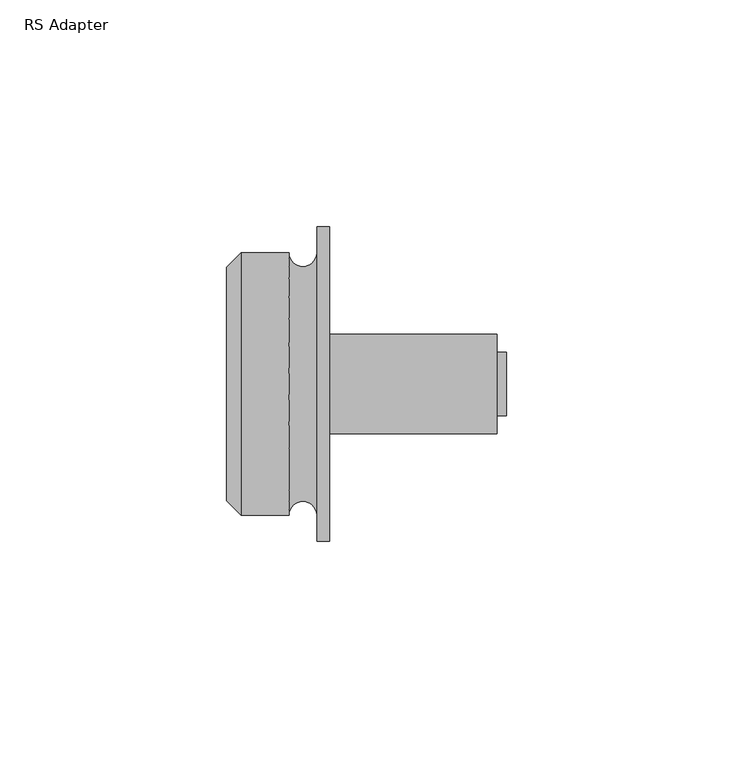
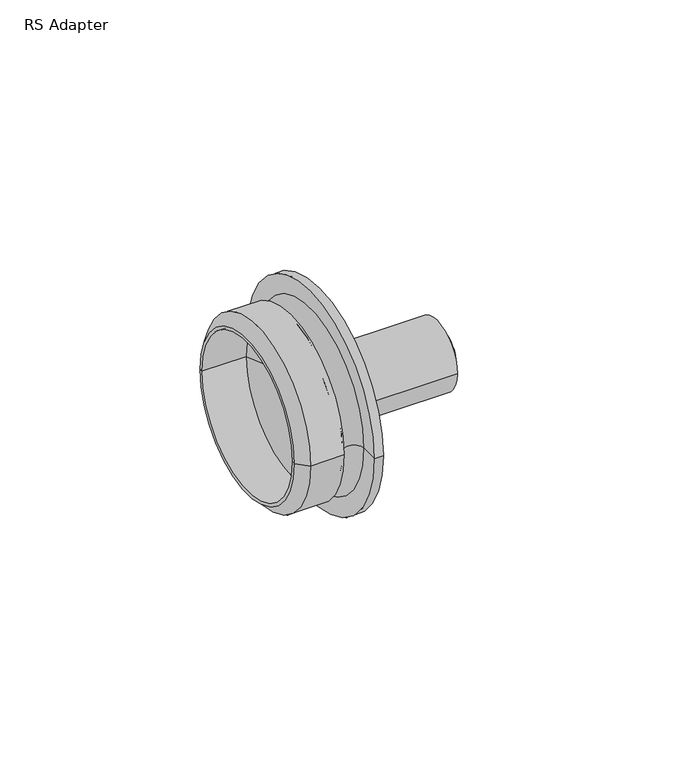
"""IFC4 building model written with IfcOpenShell, lengths in millimetres: pipe fitting geometry, RS Adapter : Superpipe RS Press Adapter."""

import ifcopenshell
import ifcopenshell.guid

model = None  # the IFC model being written
_history = None  # IfcOwnerHistory: only IFC2X3 demands one
_inside = {}  # id of a spatial element -> (the spatial element, [elements in it])
_under = {}  # id of a project, library or spatial element -> (it, [spatial elements below it])
_declared = {}  # id of a project -> (the project, [libraries it declares])
_typed = {}  # id of a type object -> (the type object, [elements of that type])
_made_of = {}  # id of a material, layer set ... -> (it, [elements and type objects made of it])


def new_model(schema):
    """Start an empty IFC model of exactly this schema.

    Asked for "IFC4X3", IfcOpenShell would pick the latest addendum, in which some entities
    have other attributes; the version numbers below select the first issue.
    IFC2X3 requires an IfcOwnerHistory on every rooted entity: one is made here for all.
    """
    global model, _history
    if schema == "IFC4X3":
        model = ifcopenshell.file(schema_version=(4, 3, 0, 0))
    else:
        model = ifcopenshell.file(schema=schema)
    _inside.clear()
    _under.clear()
    _declared.clear()
    _typed.clear()
    _made_of.clear()
    _history = None
    if model.schema == "IFC2X3":
        org = make("IfcOrganization", Name="unknown")
        user = make(
            "IfcPersonAndOrganization",
            ThePerson=make("IfcPerson", FamilyName="unknown"),
            TheOrganization=org,
        )
        app = make(
            "IfcApplication",
            ApplicationDeveloper=org,
            Version="unknown",
            ApplicationFullName="unknown",
            ApplicationIdentifier="unknown",
        )
        _history = make(
            "IfcOwnerHistory",
            OwningUser=user,
            OwningApplication=app,
            ChangeAction="ADDED",
            CreationDate=0,
        )
    return model


def make(cls, **values):
    """One entity of the class cls with the attributes given. An attribute that is None is left unset."""
    return model.create_entity(
        cls, **{name: value for name, value in values.items() if value is not None}
    )


def rooted(cls, **values):
    """An entity with a GlobalId (a new one), such as an element, a storey or a relation."""
    return make(cls, GlobalId=ifcopenshell.guid.new(), OwnerHistory=_history, **values)


def si_unit(unit_type, name, prefix=None):
    """IfcSIUnit, for example si_unit("LENGTHUNIT", "METRE", prefix="MILLI")."""
    return make("IfcSIUnit", UnitType=unit_type, Prefix=prefix, Name=name)


def assignment(units):
    """IfcUnitAssignment: the units of a project."""
    return None if units is None else make("IfcUnitAssignment", Units=units)


def point(xyz):
    """IfcCartesianPoint."""
    return None if xyz is None else make("IfcCartesianPoint", Coordinates=xyz)


def direction(xyz):
    """IfcDirection."""
    return None if xyz is None else make("IfcDirection", DirectionRatios=xyz)


def frame(location, z_axis=None, x_axis=None):
    """IfcAxis2Placement3D, a coordinate frame: its origin and axes. An axis left out is left unset."""
    return make(
        "IfcAxis2Placement3D",
        Location=point(location),
        Axis=direction(z_axis),
        RefDirection=direction(x_axis),
    )


def origin():
    """The frame at (0, 0, 0) with its axes left unset."""
    return frame((0.0, 0.0, 0.0))


def place(relative_to, where):
    """IfcLocalPlacement: puts the frame where relative to a parent placement (None: the world)."""
    return make(
        "IfcLocalPlacement", PlacementRelTo=relative_to, RelativePlacement=where
    )


def context(
    kind, dimensions, precision=None, world=None, true_north=None, identifier=None
):
    """IfcGeometricRepresentationContext, for example the 3D "Model" context."""
    return make(
        "IfcGeometricRepresentationContext",
        ContextIdentifier=identifier,
        ContextType=kind,
        CoordinateSpaceDimension=dimensions,
        Precision=precision,
        WorldCoordinateSystem=world,
        TrueNorth=true_north,
    )


def project(units=None, contexts=None):
    """IfcProject with its units and contexts."""
    return rooted(
        "IfcProject",
        Name="project",
        RepresentationContexts=contexts,
        UnitsInContext=assignment(units),
    )


def spatial(cls, under=None, at=None, **own):
    """A site, building, storey or space (cls), placed at a placement, below another one or the project."""
    s = rooted(cls, ObjectPlacement=at, **own)
    if under is not None:
        _under.setdefault(under.id(), (under, []))[1].append(s)
    return s


def polyline(points):
    """IfcPolyline through the points."""
    return make("IfcPolyline", Points=[point(p) for p in points])


def circle_curve(where, radius):
    """IfcCircle in the frame where."""
    return make("IfcCircle", Position=where, Radius=radius)


def ellipse_curve(where, semi_axis1, semi_axis2):
    """IfcEllipse in the frame where."""
    return make(
        "IfcEllipse", Position=where, SemiAxis1=semi_axis1, SemiAxis2=semi_axis2
    )


def trimmed(basis, trim1, trim2, sense, master):
    """IfcTrimmedCurve: the piece of a basis curve between two trims."""
    return make(
        "IfcTrimmedCurve",
        BasisCurve=basis,
        Trim1=trim1,
        Trim2=trim2,
        SenseAgreement=sense,
        MasterRepresentation=master,
    )


def shape(context_of_items, identifier, shape_type, items):
    """IfcShapeRepresentation: the items that make up one representation, for example the "Body"."""
    return make(
        "IfcShapeRepresentation",
        ContextOfItems=context_of_items,
        RepresentationIdentifier=identifier,
        RepresentationType=shape_type,
        Items=items,
    )


def source(mapping_origin, context_of_items, identifier, shape_type, items):
    """IfcRepresentationMap: a shape defined once, which mapped items show again and again."""
    return make(
        "IfcRepresentationMap",
        MappingOrigin=mapping_origin,
        MappedRepresentation=shape(context_of_items, identifier, shape_type, items),
    )


def transform(
    local_origin,
    x_axis=None,
    y_axis=None,
    z_axis=None,
    scale=None,
    scale2=None,
    scale3=None,
    uniform=True,
):
    """IfcCartesianTransformationOperator3D, or its non-uniform kind. x_axis, y_axis, z_axis: its Axis1, 2, 3."""
    if uniform:
        return make(
            "IfcCartesianTransformationOperator3D",
            Axis1=direction(x_axis),
            Axis2=direction(y_axis),
            LocalOrigin=point(local_origin),
            Scale=scale,
            Axis3=direction(z_axis),
        )
    return make(
        "IfcCartesianTransformationOperator3DnonUniform",
        Axis1=direction(x_axis),
        Axis2=direction(y_axis),
        LocalOrigin=point(local_origin),
        Scale=scale,
        Axis3=direction(z_axis),
        Scale2=scale2,
        Scale3=scale3,
    )


def mapped(mapping_source, mapping_target):
    """IfcMappedItem: shows the shape of a source again, moved by a transform."""
    return make(
        "IfcMappedItem", MappingSource=mapping_source, MappingTarget=mapping_target
    )


def made_of(thing, what):
    """Note that an element or type object is made of a material, layer set ...; save() writes the relation."""
    if what is not None:
        _made_of.setdefault(what.id(), (what, []))[1].append(thing)
    return thing


def element(
    cls,
    number,
    at=None,
    inside=None,
    cuts=None,
    type_object=None,
    material=None,
    context=None,
    identifier="Body",
    shape_type=None,
    held_by="IfcProductDefinitionShape",
    body=None,
    shapes=None,
    **own,
):
    """One element of the class cls, such as IfcWall. Its Tag is "e" and its number.

    at: its placement. inside: the storey or other place that contains it. cuts: it is an
    opening in that element (IfcRelVoidsElement). A single representation is given by context,
    identifier, shape_type and body (its items); several are given by shapes. held_by: the class
    of the entity that holds the representations. save() writes the other relations.
    """
    e = rooted(cls, Tag="e%d" % number, ObjectPlacement=at, **own)
    if body is not None:
        shapes = [shape(context, identifier, shape_type, body)]
    if shapes is not None:
        e.Representation = make(held_by, Representations=shapes)
    if inside is not None:
        _inside.setdefault(inside.id(), (inside, []))[1].append(e)
    if cuts is not None:
        rooted(
            "IfcRelVoidsElement", RelatingBuildingElement=cuts, RelatedOpeningElement=e
        )
    if type_object is not None:
        _typed.setdefault(type_object.id(), (type_object, []))[1].append(e)
    return made_of(e, material)


def aggregate(whole, parts):
    """IfcRelAggregates: a whole, such as a stair, and the parts it consists of."""
    return rooted("IfcRelAggregates", RelatingObject=whole, RelatedObjects=parts)


def save(model, path):
    """Write the relations noted so far, then the file.

    IfcRelAggregates (storeys below a building ...), IfcRelContainedInSpatialStructure (elements
    in a storey), IfcRelDefinesByType, IfcRelAssociatesMaterial and IfcRelDeclares: one each for
    every whole, place, type object, material and project.
    """
    for whole, parts in _under.values():
        aggregate(whole, parts)
    for where, things in _inside.values():
        rooted(
            "IfcRelContainedInSpatialStructure",
            RelatedElements=things,
            RelatingStructure=where,
        )
    for kind, things in _typed.values():
        rooted("IfcRelDefinesByType", RelatedObjects=things, RelatingType=kind)
    for what, things in _made_of.values():
        rooted("IfcRelAssociatesMaterial", RelatedObjects=things, RelatingMaterial=what)
    for by, libraries in _declared.values():
        rooted("IfcRelDeclares", RelatingContext=by, RelatedDefinitions=libraries)
    model.write(path)


def plane_surface(at):
    """IfcPlane: the flat surface through the origin of the frame at, square to its z axis."""
    return make("IfcPlane", Position=at)


def cylinder_surface(at, radius):
    """IfcCylindricalSurface: all points at the distance radius from the z axis of the frame at."""
    return make("IfcCylindricalSurface", Position=at, Radius=radius)


def revolved_surface(curve, axis_point, axis_direction):
    """IfcSurfaceOfRevolution: the curve turned about the line through axis_point along axis_direction."""
    return make(
        "IfcSurfaceOfRevolution",
        SweptCurve=make("IfcArbitraryOpenProfileDef", ProfileType="CURVE", Curve=curve),
        AxisPosition=make("IfcAxis1Placement", Location=point(axis_point), Axis=direction(axis_direction)),
    )


def advanced_brep(points, edges, surfaces, faces):
    """IfcAdvancedBrep: a solid bounded by faces that lie on surfaces and meet in shared edges.

    An edge is (start, end): straight between two places in points (the first is 0);
    or (start, end, curve); or (start, end, curve, False) where it runs against its curve.
    A face is (place in surfaces, loops), or (place, loops, False) where it looks against
    its surface's normal. A loop lists edges by number (the first is 1), with a minus sign
    where the edge is run from its end to its start. The first loop is the outer one.
    """
    corners = [point(p) for p in points]
    vertices = [make("IfcVertexPoint", VertexGeometry=c) for c in corners]
    made = []
    for start, end, *more in edges:
        made.append(
            make(
                "IfcEdgeCurve",
                EdgeStart=vertices[start],
                EdgeEnd=vertices[end],
                EdgeGeometry=more[0] if more else make("IfcPolyline", Points=[corners[start], corners[end]]),
                SameSense=more[1] if len(more) > 1 else True,
            )
        )
    hull = []
    for where, loops, *sense in faces:
        bounds = []
        for j, loop in enumerate(loops):
            ring = [make("IfcOrientedEdge", EdgeElement=made[abs(k) - 1], Orientation=k > 0) for k in loop]
            bounds.append(
                make(
                    "IfcFaceOuterBound" if j == 0 else "IfcFaceBound",
                    Bound=make("IfcEdgeLoop", EdgeList=ring),
                    Orientation=True,
                )
            )
        hull.append(make("IfcAdvancedFace", Bounds=bounds, FaceSurface=surfaces[where], SameSense=sense[0] if sense else True))
    return make("IfcAdvancedBrep", Outer=make("IfcClosedShell", CfsFaces=hull))


def rs_adapter_f82712ed(model_context):
    return source(origin(), model_context, "Body", "AdvancedBrep", [
        advanced_brep(
        [(59.8, -11.0, 0.0), (59.8, 11.0, 0.0), (59.8, 10.0, 0.0), (59.8, -10.0, 0.0), (22.8, 10.0, 0.0), (22.8, -10.0, 0.0), (22.8, 11.0, 0.0), (22.8, -11.0, 0.0)],
        [
            (0, 1, circle_curve(frame((59.8, 0.0, 0.0), z_axis=(1.0, 0.0, 0.0), x_axis=(0.0, 1.0, 0.0)), 11.0)),
            (1, 2),
            (2, 3, circle_curve(frame((59.8, 0.0, 0.0), z_axis=(-1.0, 0.0, 0.0), x_axis=(0.0, 1.0, 0.0)), 10.0)),
            (3, 0),
            (2, 4),
            (4, 5, circle_curve(frame((22.8, 0.0, 0.0), z_axis=(-1.0, 0.0, 0.0), x_axis=(0.0, 1.0, 0.0)), 10.0)),
            (5, 3),
            (4, 6),
            (6, 7, circle_curve(frame((22.8, 0.0, 0.0), z_axis=(-1.0, 0.0, 0.0), x_axis=(0.0, 1.0, 0.0)), 11.0)),
            (7, 5),
            (6, 1),
            (0, 7),
            (6, 7, circle_curve(frame((22.8, 0.0, 0.0), z_axis=(1.0, 0.0, 0.0), x_axis=(0.0, 1.0, 0.0)), 11.0)),
            (0, 1, circle_curve(frame((59.8, 0.0, 0.0), z_axis=(-1.0, 0.0, 0.0), x_axis=(0.0, 1.0, 0.0)), 11.0)),
            (4, 5, circle_curve(frame((22.8, 0.0, 0.0), z_axis=(1.0, 0.0, 0.0), x_axis=(0.0, 1.0, 0.0)), 10.0)),
            (2, 3, circle_curve(frame((59.8, 0.0, 0.0), z_axis=(1.0, 0.0, 0.0), x_axis=(0.0, 1.0, 0.0)), 10.0)),
        ],
        [
            plane_surface(frame((59.8, 0.0, 0.0), z_axis=(1.0, 0.0, 0.0), x_axis=(0.0, 1.0, 0.0))),
            revolved_surface(polyline([(22.799999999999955, 10.0, 0.0), (59.799999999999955, 10.0, 0.0)]), (1997.0, 0.0, 0.0), (-1.0, 0.0, 0.0)),
            plane_surface(frame((22.8, 0.0, 0.0), z_axis=(-1.0, 0.0, 0.0), x_axis=(0.0, 1.0, 0.0))),
            cylinder_surface(frame((1997.0, 0.0, 0.0), z_axis=(-1.0, 0.0, 0.0), x_axis=(0.0, 1.0, 0.0)), 11.0),
        ],
        [
            (0, [[1, 2, 3, 4]]),
            (1, [[-3, 5, 6, 7]]),
            (2, [[-6, 8, 9, 10]]),
            (3, [[-9, 11, -1, 12]]),
            (3, [[13, -12, 14, -11]]),
            (2, [[15, -10, -13, -8]]),
            (1, [[16, -7, -15, -5]]),
            (0, [[-14, -4, -16, -2]]),
        ],
    ),
        advanced_brep(
        [(61.8, -7.0, 0.0), (61.8, 7.0, 0.0), (61.8, 5.0, 0.0), (61.8, -5.0, 0.0), (22.8, 5.0, 0.0), (22.8, -5.0, 0.0), (22.8, 7.0, 0.0), (22.8, -7.0, 0.0)],
        [
            (0, 1, circle_curve(frame((61.8, 0.0, 0.0), z_axis=(1.0, 0.0, 0.0), x_axis=(0.0, 1.0, 0.0)), 7.0)),
            (1, 2),
            (2, 3, circle_curve(frame((61.8, 0.0, 0.0), z_axis=(-1.0, 0.0, 0.0), x_axis=(0.0, 1.0, 0.0)), 5.0)),
            (3, 0),
            (2, 4),
            (4, 5, circle_curve(frame((22.8, 0.0, 0.0), z_axis=(-1.0, 0.0, 0.0), x_axis=(0.0, 1.0, 0.0)), 5.0)),
            (5, 3),
            (4, 6),
            (6, 7, circle_curve(frame((22.8, 0.0, 0.0), z_axis=(-1.0, 0.0, 0.0), x_axis=(0.0, 1.0, 0.0)), 7.0)),
            (7, 5),
            (6, 1),
            (0, 7),
            (6, 7, circle_curve(frame((22.8, 0.0, 0.0), z_axis=(1.0, 0.0, 0.0), x_axis=(0.0, 1.0, 0.0)), 7.0)),
            (0, 1, circle_curve(frame((61.8, 0.0, 0.0), z_axis=(-1.0, 0.0, 0.0), x_axis=(0.0, 1.0, 0.0)), 7.0)),
            (4, 5, circle_curve(frame((22.8, 0.0, 0.0), z_axis=(1.0, 0.0, 0.0), x_axis=(0.0, 1.0, 0.0)), 5.0)),
            (2, 3, circle_curve(frame((61.8, 0.0, 0.0), z_axis=(1.0, 0.0, 0.0), x_axis=(0.0, 1.0, 0.0)), 5.0)),
        ],
        [
            plane_surface(frame((61.8, 0.0, 0.0), z_axis=(1.0, 0.0, 0.0), x_axis=(0.0, 1.0, 0.0))),
            revolved_surface(polyline([(22.799999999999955, 5.0, 0.0), (61.799999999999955, 5.0, 0.0)]), (1997.0, 0.0, 0.0), (-1.0, 0.0, 0.0)),
            plane_surface(frame((22.8, 0.0, 0.0), z_axis=(-1.0, 0.0, 0.0), x_axis=(0.0, 1.0, 0.0))),
            cylinder_surface(frame((1997.0, 0.0, 0.0), z_axis=(-1.0, 0.0, 0.0), x_axis=(0.0, 1.0, 0.0)), 7.0),
        ],
        [
            (0, [[1, 2, 3, 4]]),
            (1, [[-3, 5, 6, 7]]),
            (2, [[-6, 8, 9, 10]]),
            (3, [[-9, 11, -1, 12]]),
            (3, [[13, -12, 14, -11]]),
            (2, [[15, -10, -13, -8]]),
            (1, [[16, -7, -15, -5]]),
            (0, [[-14, -4, -16, -2]]),
        ],
    ),
        advanced_brep(
        [(20.0, -34.75, 0.0), (20.0, 34.75, 0.0), (22.8, 34.75, 0.0), (22.8, -34.75, 0.0), (20.0, -29.0, 0.0), (20.0, 29.0, 0.0), (22.8, 5.0, 0.0), (22.8, -5.0, 0.0), (0.0, -25.8, 0.0), (0.0, 25.8, 0.0), (3.2, 29.0, 0.0), (3.2, -29.0, 0.0), (0.0, -24.8, 0.0), (0.0, 24.8, 0.0), (13.8, -29.0, 0.0), (13.8, 29.0, 0.0), (14.0, -24.8, 0.0), (14.0, 24.8, 0.0)],
        [
            (0, 1, circle_curve(frame((20.0, 0.0, 0.0), z_axis=(1.0, 0.0, 0.0), x_axis=(0.0, 1.0, 0.0)), 34.75)),
            (1, 2),
            (2, 3, circle_curve(frame((22.8, 0.0, 0.0), z_axis=(-1.0, 0.0, 0.0), x_axis=(0.0, 1.0, 0.0)), 34.75)),
            (3, 0),
            (1, 0, circle_curve(frame((20.0, 0.0, 0.0), z_axis=(1.0, 0.0, 0.0), x_axis=(0.0, 1.0, 0.0)), 34.75)),
            (3, 2, circle_curve(frame((22.8, 0.0, 0.0), z_axis=(-1.0, 0.0, 0.0), x_axis=(0.0, 1.0, 0.0)), 34.75)),
            (0, 4),
            (4, 5, circle_curve(frame((20.0, 0.0, 0.0), z_axis=(1.0, 0.0, 0.0), x_axis=(0.0, 1.0, 0.0)), 29.0)),
            (5, 1),
            (5, 4, circle_curve(frame((20.0, 0.0, 0.0), z_axis=(1.0, 0.0, 0.0), x_axis=(0.0, 1.0, 0.0)), 29.0)),
            (2, 6),
            (6, 7, circle_curve(frame((22.8, 0.0, 0.0), z_axis=(-1.0, 0.0, 0.0), x_axis=(0.0, 1.0, 0.0)), 5.0)),
            (7, 3),
            (7, 6, circle_curve(frame((22.8, 0.0, 0.0), z_axis=(-1.0, 0.0, 0.0), x_axis=(0.0, 1.0, 0.0)), 5.0)),
            (8, 9, circle_curve(frame((0.0, 0.0, 0.0), z_axis=(1.0, 0.0, 0.0), x_axis=(0.0, 1.0, 0.0)), 25.8)),
            (9, 10),
            (10, 11, circle_curve(frame((3.2, 0.0, 0.0), z_axis=(-1.0, 0.0, 0.0), x_axis=(0.0, 1.0, 0.0)), 29.0)),
            (11, 8),
            (9, 8, circle_curve(frame((0.0, 0.0, 0.0), z_axis=(1.0, 0.0, 0.0), x_axis=(0.0, 1.0, 0.0)), 25.8)),
            (11, 10, circle_curve(frame((3.2, 0.0, 0.0), z_axis=(-1.0, 0.0, 0.0), x_axis=(0.0, 1.0, 0.0)), 29.0)),
            (8, 12),
            (12, 13, circle_curve(frame((0.0, 0.0, 0.0), z_axis=(1.0, 0.0, 0.0), x_axis=(0.0, 1.0, 0.0)), 24.8)),
            (13, 9),
            (13, 12, circle_curve(frame((0.0, 0.0, 0.0), z_axis=(1.0, 0.0, 0.0), x_axis=(0.0, 1.0, 0.0)), 24.8)),
            (4, 14, circle_curve(frame((16.9, -29.0, 0.0), z_axis=(0.0, 0.0, 1.0), x_axis=(1.0, 0.0, 0.0)), 3.1)),
            (14, 15, circle_curve(frame((13.8, 0.0, 0.0), z_axis=(1.0, 0.0, 0.0), x_axis=(0.0, 1.0, 0.0)), 29.0)),
            (15, 5, circle_curve(frame((16.9, 29.0, 0.0), z_axis=(0.0, 0.0, 1.0), x_axis=(1.0, 0.0, 0.0)), 3.1)),
            (15, 14, circle_curve(frame((13.8, 0.0, 0.0), z_axis=(1.0, 0.0, 0.0), x_axis=(0.0, 1.0, 0.0)), 29.0)),
            (10, 15),
            (14, 11),
            (12, 16),
            (16, 17, circle_curve(frame((14.0, 0.0, 0.0), z_axis=(1.0, 0.0, 0.0), x_axis=(0.0, 1.0, 0.0)), 24.8)),
            (17, 13),
            (17, 16, circle_curve(frame((14.0, 0.0, 0.0), z_axis=(1.0, 0.0, 0.0), x_axis=(0.0, 1.0, 0.0)), 24.8)),
            (16, 7),
            (6, 17),
        ],
        [
            cylinder_surface(frame((1981.8, 0.0, 0.0), z_axis=(-1.0, 0.0, 0.0), x_axis=(0.0, 1.0, 0.0)), 34.75),
            plane_surface(frame((20.0, 0.0, 0.0), z_axis=(-1.0, 0.0, 0.0), x_axis=(0.0, 1.0, 0.0))),
            plane_surface(frame((22.8, 0.0, 0.0), z_axis=(1.0, 0.0, 0.0), x_axis=(0.0, 1.0, 0.0))),
            revolved_surface(polyline([(3.2, 29.0, 0.0), (0.0, 25.8, 0.0)]), (1981.8, 0.0, 0.0), (-1.0, 0.0, 0.0)),
            plane_surface(frame((0.0, 0.0, 0.0), z_axis=(-1.0, 0.0, 0.0), x_axis=(0.0, 1.0, 0.0))),
            revolved_surface(trimmed(ellipse_curve(frame((16.9, 29.0, 0.0), z_axis=(0.0, 0.0, -1.0), x_axis=(1.0, 0.0, 0.0)), 3.1, 3.1), [point((20.0, 29.0, 0.0))], [point((13.8, 29.0, 0.0))], True, "CARTESIAN"), (1981.8, 0.0, 0.0), (-1.0, 0.0, 0.0)),
            cylinder_surface(frame((1981.8, 0.0, 0.0), z_axis=(-1.0, 0.0, 0.0), x_axis=(0.0, 1.0, 0.0)), 29.0),
            revolved_surface(polyline([(0.0, 24.8, 0.0), (14.0, 24.8, 0.0)]), (2008.0, 0.0, 0.0), (-1.0, 0.0, 0.0)),
            revolved_surface(polyline([(14.0, 24.8, 0.0), (22.8, 5.0, 0.0)]), (2008.0, 0.0, 0.0), (-1.0, 0.0, 0.0)),
        ],
        [
            (0, [[1, 2, 3, 4]]),
            (0, [[-2, 5, -4, 6]]),
            (1, [[-1, 7, 8, 9]]),
            (1, [[-5, -9, 10, -7]]),
            (2, [[-3, 11, 12, 13]]),
            (2, [[-6, -13, 14, -11]]),
            (3, [[15, 16, 17, 18]]),
            (3, [[-16, 19, -18, 20]]),
            (4, [[-15, 21, 22, 23]]),
            (4, [[-19, -23, 24, -21]]),
            (5, [[-8, 25, 26, 27]]),
            (5, [[-10, -27, 28, -25]]),
            (6, [[-17, 29, -26, 30]]),
            (6, [[-20, -30, -28, -29]]),
            (7, [[31, 32, 33, -22]]),
            (7, [[-31, -24, -33, 34]]),
            (8, [[-32, 35, -12, 36]]),
            (8, [[-34, -36, -14, -35]]),
        ],
    ),
    ])


if __name__ == "__main__":
    model = new_model("IFC4")
    model_context = context("Model", 3, world=origin())
    ifc_project = project(units=[si_unit("LENGTHUNIT", "METRE", prefix="MILLI")], contexts=[model_context])
    site = spatial("IfcSite", under=ifc_project)
    building = spatial("IfcBuilding", under=site)
    placement = place(None, origin())
    rs_adapter_shape = rs_adapter_f82712ed(model_context)
    element("IfcPipeFitting", 1, ObjectType="RS Adapter : Superpipe RS Press Adapter", at=placement, inside=building, context=model_context, shape_type="MappedRepresentation", body=[
        mapped(rs_adapter_shape, transform((0.0, 0.0, 0.0), x_axis=(1.0, 0.0, 0.0), y_axis=(0.0, 1.0, 0.0), z_axis=(0.0, 0.0, 1.0))),
    ])
    save(model, "model.ifc")
